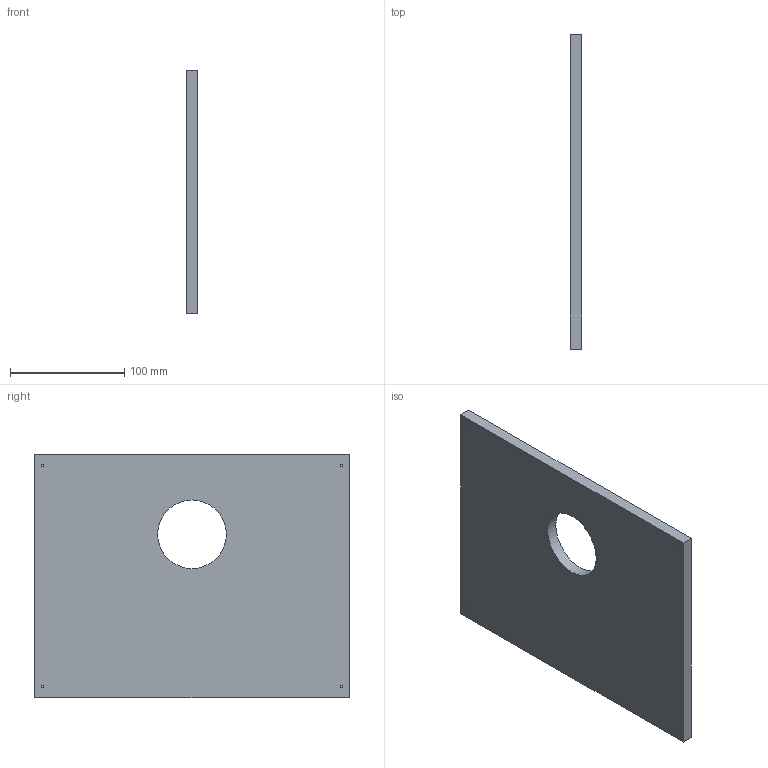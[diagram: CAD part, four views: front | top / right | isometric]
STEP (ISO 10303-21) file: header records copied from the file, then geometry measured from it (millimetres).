
FILE_DESCRIPTION(('FreeCAD Model'),'2;1');
FILE_NAME( '/home/bluelambda/Documents/Arcade/cad/step/back_trapdoor.step', '2016-05-08T11:27:47',('Author'),(''), 'Open CASCADE STEP processor 6.9','FreeCAD','Unknown');
FILE_SCHEMA(('AUTOMOTIVE_DESIGN { 1 0 10303 214 1 1 1 1 }'));
Length unit declared in the file: millimetre
Products named in the file (1): back_trapdoor
Bounding box: 10 x 275 x 213 mm (x, y, z)
Volume: 557350 mm3; surface area: 123366.3 mm2
Topology: 1 solids, 1 shells, 11 faces, 27 edges, 18 vertices
Faces by surface type: plane 6, cylinder 5
Full cylindrical faces by diameter (mm): 2 x4, 60 x1
Entity records: 753 total; most frequent: CARTESIAN_POINT 171, DIRECTION 105, LINE 61, VECTOR 61, ORIENTED_EDGE 54, PCURVE 54, DEFINITIONAL_REPRESENTATION 54, EDGE_CURVE 27
